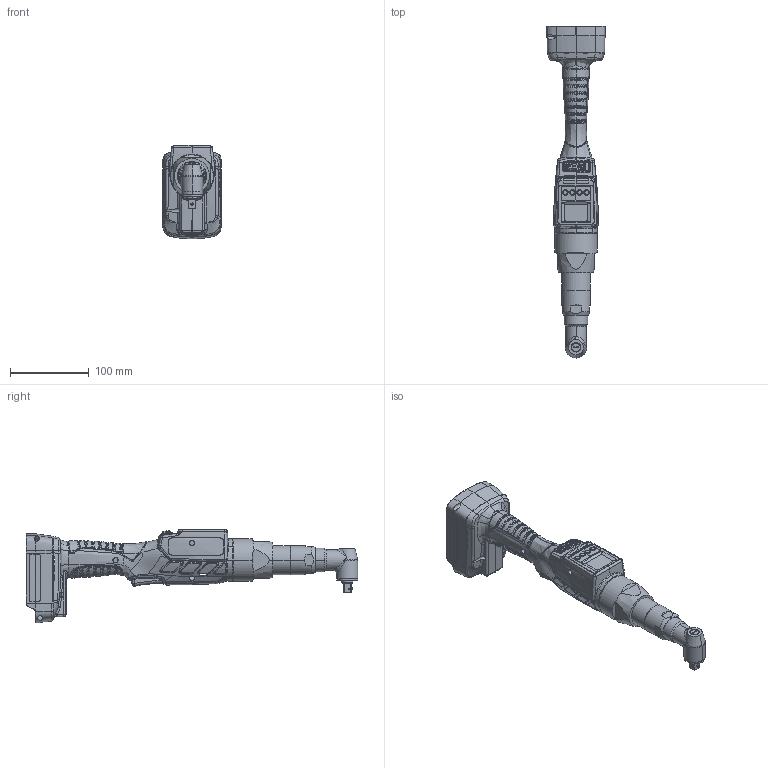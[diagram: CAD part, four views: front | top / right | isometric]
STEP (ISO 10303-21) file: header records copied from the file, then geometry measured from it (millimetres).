
FILE_DESCRIPTION (( 'STEP AP203' ), '1' );
FILE_NAME ('BMH3204-Q 諼睡辨.STEP', '2021-03-04T00:26:53', ( '' ), ( '' ), 'SwSTEP 2.0', 'SolidWorks 2020', '' );
FILE_SCHEMA (( 'CONFIG_CONTROL_DESIGN' ));
Products named in the file (1): BMH3204-Q 諼睡辨
Bounding box: 74.18 x 421.59 x 119.33 mm (x, y, z)
Surface area: 107906.8 mm2 (no closed solid volume)
Topology: 0 solids, 34 shells, 1551 faces, 5197 edges, 3551 vertices
Faces by surface type: bspline 987, cylinder 244, plane 237, cone 36, sphere 34, torus 13
Entity records: 133827 total; most frequent: CARTESIAN_POINT 99999, ORIENTED_EDGE 8352, EDGE_CURVE 5185, DIRECTION 3607, VERTEX_POINT 3548, B_SPLINE_CURVE_WITH_KNOTS 2948, EDGE_LOOP 1625, FACE_OUTER_BOUND 1550
